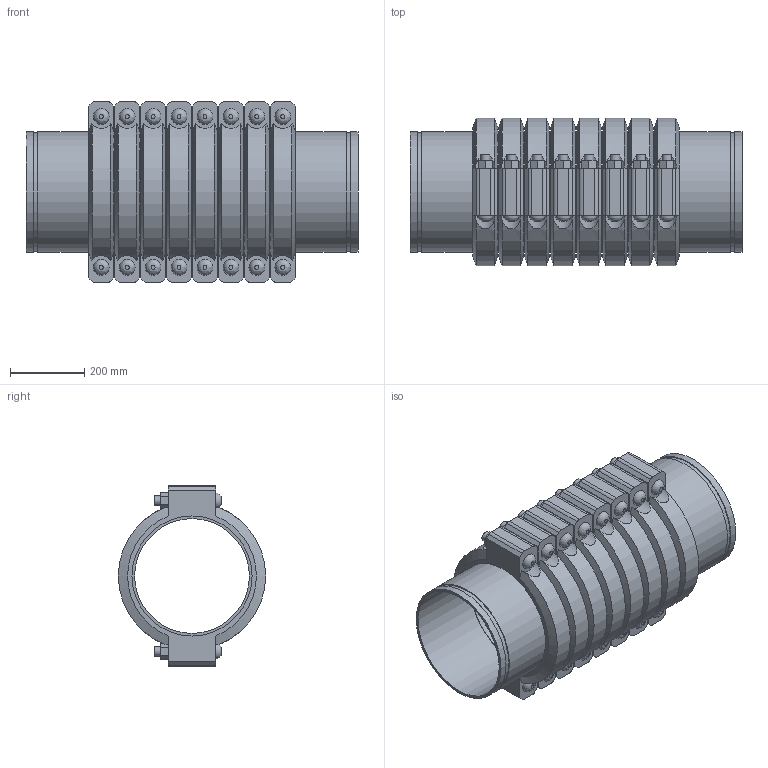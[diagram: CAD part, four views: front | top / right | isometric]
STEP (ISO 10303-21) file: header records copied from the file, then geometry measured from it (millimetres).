
FILE_DESCRIPTION(/* description */ ('VIC EXPANSION JOINT 8 COUPLINGS COMPRESSED STYLE 155 (OGS)','CAx-IF Rec.Pracs.---Representation and Presentation of Product Manufacturing Information (PMI)---4.0---2014-10-13'),/* implementation_level */ '2;1');
FILE_NAME(/* name */ 'C:\Users\kkamble\AppData\Roaming\Autodesk\ApplicationPlugins\Victaulic.Temp\A709\Victaulic_IPS_Expansion Joint_Compressed_8 Couplings_Style 155 (OGS)_12 (300).stp',/* time_stamp */ '2021-06-27T00:36:50+02:00',/* author */ ('kkamble'),/* organization */ ('Victaulic'),/* preprocessor_version */ 'ST-DEVELOPER v17.2',/* originating_system */ 'Autodesk Inventor 2019',/* authorisation */ '');
FILE_SCHEMA (('AP242_MANAGED_MODEL_BASED_3D_ENGINEERING_MIM_LF { 1 0 10303 442 1 1 4 }'));
Length unit declared in the file: inch
Products named in the file (4): 155-12.0; Nipple-12.0; Nipple-12.0_1; 077-8 Coup-12.0
Assembly tree (17 placements, depth 2):
  155-12.0
    Nipple-12.0  x2
    Nipple-12.0_1  x7
    077-8 Coup-12.0  x8
Bounding box: 895.35 x 397 x 488.95 mm (x, y, z)
Volume: 32807463.3 mm3; surface area: 4481578.2 mm2
Topology: 17 solids, 33 shells, 564 faces, 1382 edges, 968 vertices
Faces by surface type: plane 326, cylinder 190, cone 32, bspline 16
Full cylindrical faces by diameter (mm): 25.4 x32, 27.432 x16, 309.677 x9, 318.287 x18, 323.85 x35
Entity records: 3011 total; most frequent: CARTESIAN_POINT 651, DIRECTION 471, ORIENTED_EDGE 398, EDGE_CURVE 199, AXIS2_PLACEMENT_3D 192, VERTEX_POINT 142, EDGE_LOOP 105, CIRCLE 92
